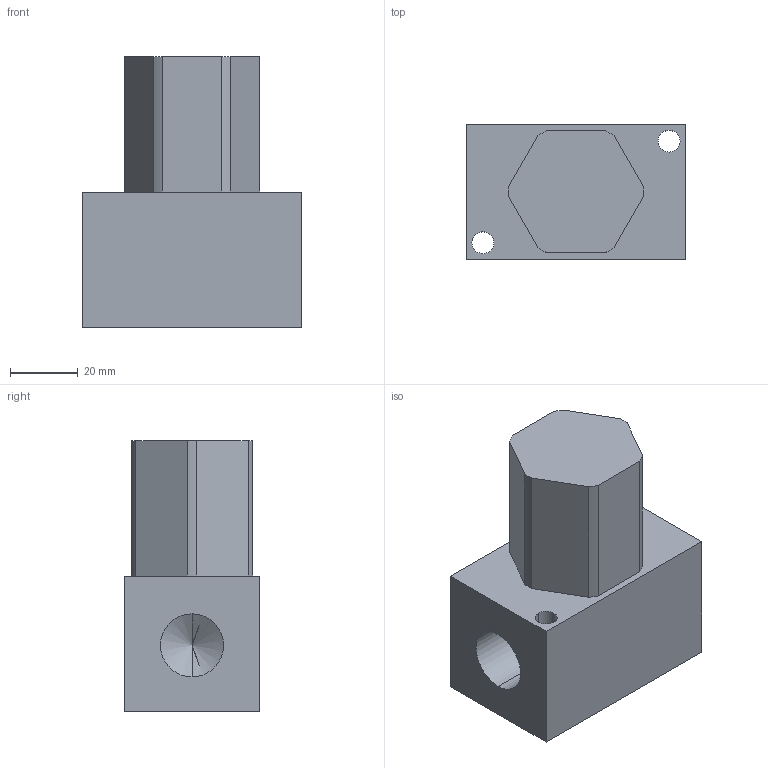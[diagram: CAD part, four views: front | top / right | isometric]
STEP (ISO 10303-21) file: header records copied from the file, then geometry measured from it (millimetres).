
FILE_DESCRIPTION((''),'2;1');
FILE_NAME('7076007_12_1_2.stp','2017-05-30T10:09:04',(''),(''),'Mechanical Desktop 2008','Mechanical Desktop 2008',', , ');
FILE_SCHEMA(('CONFIG_CONTROL_DESIGN'));
Length unit declared in the file: millimetre
Products named in the file (2): 7076007_12_1_2; ~PART1
Assembly tree (1 placements, depth 2):
  7076007_12_1_2
    ~PART1
Bounding box: 65 x 40 x 80 mm (x, y, z)
Volume: 134398.6 mm3; surface area: 22470.2 mm2
Topology: 1 solids, 1 shells, 211 faces, 581 edges, 384 vertices
Faces by surface type: plane 113, bspline 80, cylinder 14, cone 4
Entity records: 7160 total; most frequent: CARTESIAN_POINT 2214, ORIENTED_EDGE 1154, DIRECTION 711, EDGE_CURVE 577, VECTOR 389, LINE 389, VERTEX_POINT 384, EDGE_LOOP 231
